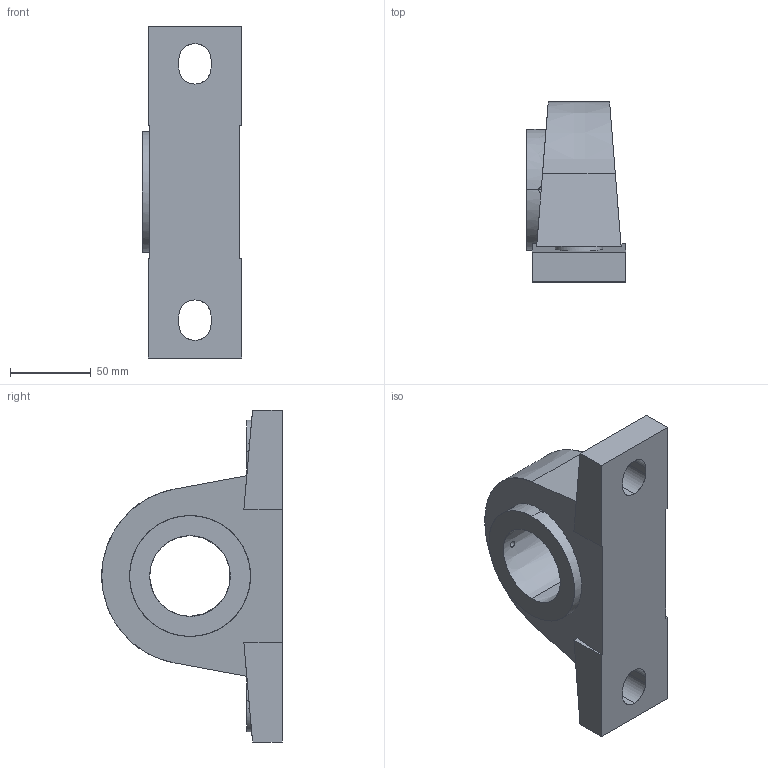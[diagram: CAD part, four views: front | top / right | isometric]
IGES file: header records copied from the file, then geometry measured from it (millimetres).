
Start section: SolidWorks IGES file using analytic representation for surfaces
Global section: file name: C:\Users\Honza\Desktop\Matis\Ložisková tìlesa\UCP\UCP 210.IGS; native system: SolidWorks 2010; preprocessor: SolidWorks 2010; author: Honza; date: 130920.104550; units: millimetre
Bounding box: 61.6 x 112 x 206 mm (x, y, z)
Surface area: 66355.9 mm2 (no closed solid volume)
Topology: 0 solids, 0 shells, 57 faces, 1499 edges, 1497 vertices
Faces by surface type: bspline 31, revolution 26
